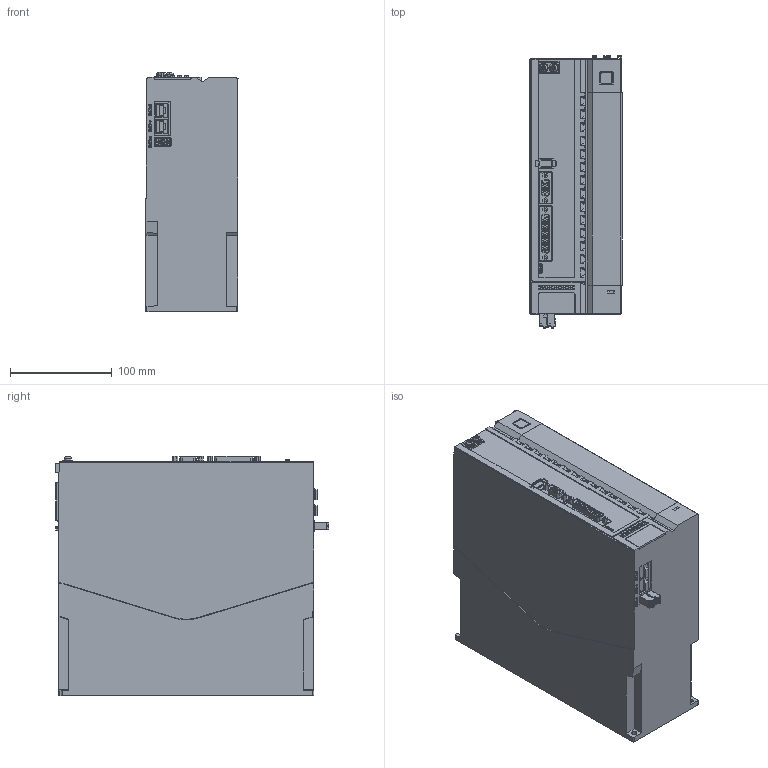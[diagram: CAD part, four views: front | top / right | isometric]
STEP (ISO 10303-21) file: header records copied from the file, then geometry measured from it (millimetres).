
FILE_DESCRIPTION((''),'2;1');
FILE_NAME('SV670P-SIZE-E-FS_ASM','2024-02-03T',('10009991'),(''),'CREO PARAMETRIC BY PTC INC, 2015290','CREO PARAMETRIC BY PTC INC, 2015290','');
FILE_SCHEMA(('AUTOMOTIVE_DESIGN { 1 0 10303 214 1 1 1 1 }'));
Products named in the file (6): MSBR-3_1_1_1; MSBR-2_1_1_1; MSBR-1_1_1_1; 20211536_1; PXC_1707854_01_FMCD-4PIN_3_1; SV670P-SIZE-E-FS_ASM
Assembly tree (5 placements, depth 2):
  SV670P-SIZE-E-FS_ASM
    MSBR-3_1_1_1
    MSBR-2_1_1_1
    MSBR-1_1_1_1
    20211536_1
    PXC_1707854_01_FMCD-4PIN_3_1
Bounding box: 90.35 x 268.5 x 235.11 mm (x, y, z)
Volume: 5021393.4 mm3; surface area: 241524.6 mm2
Topology: 5 solids, 27 shells, 2682 faces, 7367 edges, 4797 vertices
Faces by surface type: plane 1538, cylinder 727, bspline 168, cone 104, torus 74, sphere 45, extrusion 26
Entity records: 132791 total; most frequent: CARTESIAN_POINT 42647, ORIENTED_EDGE 14618, DIRECTION 13064, EDGE_CURVE 7309, VERTEX_POINT 4797, VECTOR 4614, LINE 4588, AXIS2_PLACEMENT_3D 4225
